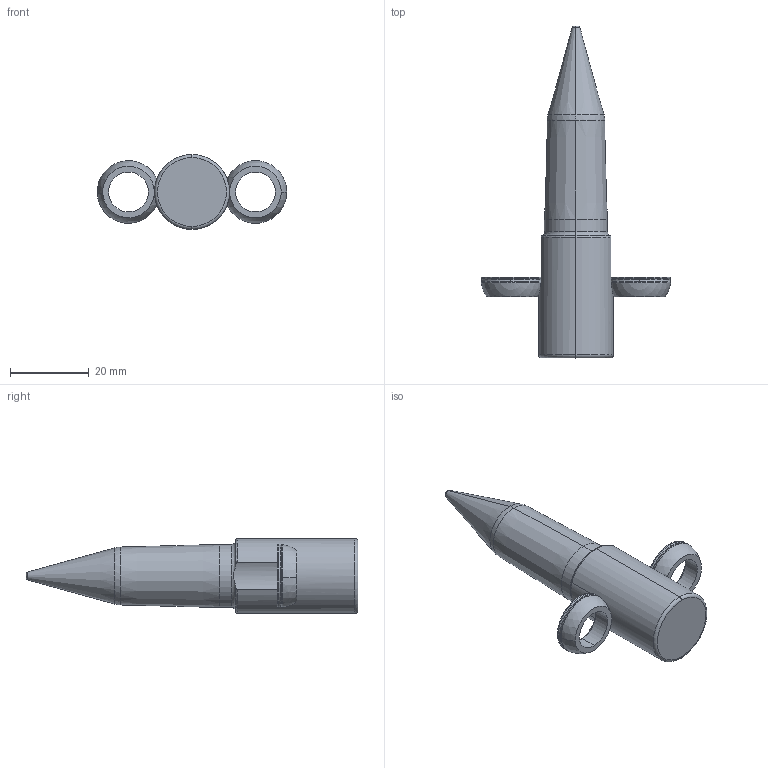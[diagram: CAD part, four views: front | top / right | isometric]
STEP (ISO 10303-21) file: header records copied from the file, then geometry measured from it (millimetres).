
FILE_DESCRIPTION (( 'STEP AP214' ), '1' );
FILE_NAME ('PA-T-16mm-3.2mm-25mm-3-A-F2.STEP', '2019-05-08T18:10:04', ( '' ), ( '' ), 'SwSTEP 2.0', 'SolidWorks 2017', '' );
FILE_SCHEMA (( 'AUTOMOTIVE_DESIGN' ));
Length unit declared in the file: inch
Products named in the file (3): PA-T-16mm-3.2mm-25mm-3-A-F2; SLRadiusWasher_RadiusWasher-M; SLPilot-PA-T-M_PA-T-16-3.2-25-3-A-F2
Assembly tree (3 placements, depth 2):
  PA-T-16mm-3.2mm-25mm-3-A-F2
    SLRadiusWasher_RadiusWasher-M  x2
    SLPilot-PA-T-M_PA-T-16-3.2-25-3-A-F2
Bounding box: 48.06 x 84.18 x 19 mm (x, y, z)
Volume: 16646.3 mm3; surface area: 5372.4 mm2
Topology: 3 solids, 3 shells, 61 faces, 136 edges, 81 vertices
Faces by surface type: torus 19, cylinder 18, cone 8, sphere 8, plane 8
Entity records: 1565 total; most frequent: CARTESIAN_POINT 344, DIRECTION 266, ORIENTED_EDGE 204, AXIS2_PLACEMENT_3D 123, EDGE_CURVE 102, CIRCLE 72, VERTEX_POINT 61, EDGE_LOOP 47
